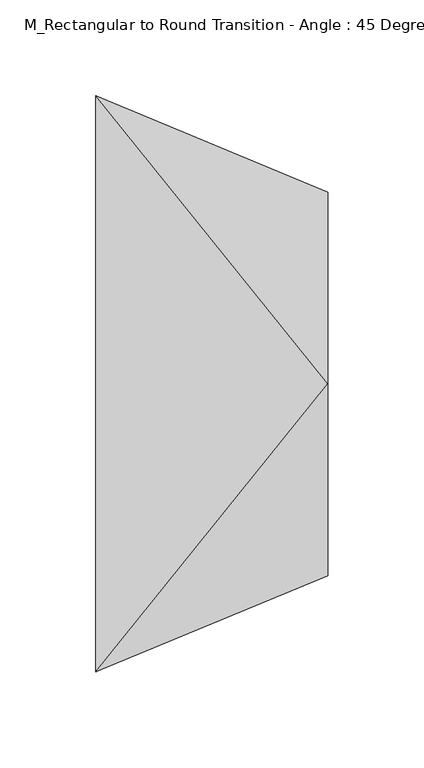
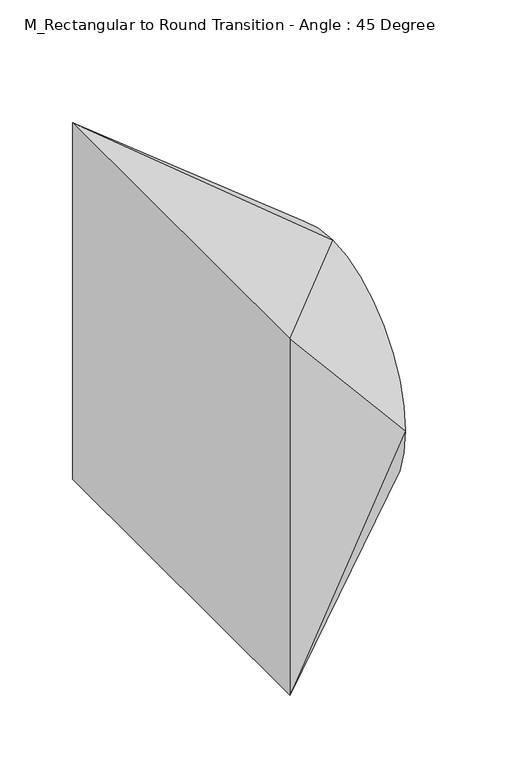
"""IFC4 building model written with IfcOpenShell, lengths in millimetres: duct fitting geometry, M_Rectangular to Round Transition - Angle : 45 Degree."""

from ifc_helpers import new_model, si_unit, frame, origin, place, context, project, spatial, circle_curve, source, transform, mapped, element, save
from ifc_brep_helpers import plane_surface, spline_surface, advanced_brep


def m_rectangular_to_round_transition_angle_45_degree_6baac8c2(model_context):
    return source(origin(), model_context, "Body", "AdvancedBrep", [
        advanced_brep(
        [(120.7106781, 0.0, 100.0), (120.7106781, -100.0, 0.0), (120.7106781, 0.0, -100.0), (120.7106781, 100.0, 0.0), (0.0, -150.0, 150.0), (0.0, 150.0, 150.0), (0.0, 150.0, -150.0), (0.0, -150.0, -150.0)],
        [
            (0, 1, circle_curve(frame((120.7106781, 0.0, 0.0), z_axis=(1.0, 0.0, 0.0), x_axis=(0.0, 1.0, 0.0)), 100.0)),
            (1, 2, circle_curve(frame((120.7106781, 0.0, 0.0), z_axis=(1.0, 0.0, 0.0), x_axis=(0.0, 1.0, 0.0)), 100.0)),
            (2, 3, circle_curve(frame((120.7106781, 0.0, 0.0), z_axis=(1.0, 0.0, 0.0), x_axis=(0.0, 1.0, 0.0)), 100.0)),
            (3, 0, circle_curve(frame((120.7106781, 0.0, 0.0), z_axis=(1.0, 0.0, 0.0), x_axis=(0.0, 1.0, 0.0)), 100.0)),
            (4, 5),
            (5, 6),
            (6, 7),
            (7, 4),
            (0, 4),
            (4, 1),
            (7, 1),
            (7, 2),
            (6, 2),
            (6, 3),
            (5, 3),
            (5, 0),
        ],
        [
            plane_surface(frame((120.7106781, 0.0, 0.0), z_axis=(1.0, 0.0, 0.0), x_axis=(0.0, 0.0, -1.0))),
            plane_surface(frame((0.0, 0.0, 0.0), z_axis=(-1.0, 0.0, 0.0), x_axis=(0.0, 0.0, -1.0))),
            spline_surface(2, 1, [[(0.0, -150.0, 150.0), (120.7106781, 0.0, 100.0)], [(0.0, -150.0, 150.0), (120.7106781, -100.0, 100.0)], [(0.0, -150.0, 150.0), (120.7106781, -100.0, 0.0)]], [3, 3], [2, 2], [0.0, 1.0], [0.0, 1.0], weights=[[1.0, 1.0], [0.7071067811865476, 0.7071067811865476], [1.0, 1.0]]),
            plane_surface(frame((0.0, -150.0, 0.0), z_axis=(0.382683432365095, -0.9238795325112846, 0.0), x_axis=(0.0, 0.0, -1.0))),
            spline_surface(2, 1, [[(0.0, -150.0, -150.0), (120.7106781, -100.0, 0.0)], [(0.0, -150.0, -150.0), (120.7106781, -100.0, -100.0)], [(0.0, -150.0, -150.0), (120.7106781, 0.0, -100.0)]], [3, 3], [2, 2], [0.0, 1.0], [0.0, 1.0], weights=[[1.0, 1.0], [0.7071067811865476, 0.7071067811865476], [1.0, 1.0]]),
            plane_surface(frame((0.0, 0.0, -150.0), z_axis=(0.38268343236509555, 0.0, -0.9238795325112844), x_axis=(0.0, 1.0, 0.0))),
            spline_surface(2, 1, [[(0.0, 150.0, -150.0), (120.7106781, 0.0, -100.0)], [(0.0, 150.0, -150.0), (120.7106781, 100.0, -100.0)], [(0.0, 150.0, -150.0), (120.7106781, 100.0, 0.0)]], [3, 3], [2, 2], [0.0, 1.0], [0.0, 1.0], weights=[[1.0, 1.0], [0.7071067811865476, 0.7071067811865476], [1.0, 1.0]]),
            plane_surface(frame((0.0, 150.0, 0.0), z_axis=(0.38268343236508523, 0.9238795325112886, 0.0), x_axis=(0.0, 0.0, 1.0))),
            spline_surface(2, 1, [[(0.0, 150.0, 150.0), (120.7106781, 100.0, 0.0)], [(0.0, 150.0, 150.0), (120.7106781, 100.0, 100.0)], [(0.0, 150.0, 150.0), (120.7106781, 0.0, 100.0)]], [3, 3], [2, 2], [0.0, 1.0], [0.0, 1.0], weights=[[1.0, 1.0], [0.7071067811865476, 0.7071067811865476], [1.0, 1.0]]),
            plane_surface(frame((0.0, 0.0, 150.0), z_axis=(0.3826834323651, 0.0, 0.9238795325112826), x_axis=(0.0, -1.0, 0.0))),
        ],
        [
            (0, [[1, 2, 3, 4]]),
            (1, [[5, 6, 7, 8]]),
            (2, [[-1, 9, 10]]),
            (3, [[-8, 11, -10]]),
            (4, [[-2, -11, 12]]),
            (5, [[-7, 13, -12]]),
            (6, [[-3, -13, 14]]),
            (7, [[-6, 15, -14]]),
            (8, [[-4, -15, 16]]),
            (9, [[-5, -9, -16]]),
        ],
    ),
    ])


if __name__ == "__main__":
    model = new_model("IFC4")
    model_context = context("Model", 3, world=origin())
    ifc_project = project(units=[si_unit("LENGTHUNIT", "METRE", prefix="MILLI")], contexts=[model_context])
    site = spatial("IfcSite", under=ifc_project)
    building = spatial("IfcBuilding", under=site)
    placement = place(None, origin())
    m_rectangular_to_round_transition_angle_45_degree_shape = m_rectangular_to_round_transition_angle_45_degree_6baac8c2(model_context)
    element("IfcDuctFitting", 1, ObjectType="M_Rectangular to Round Transition - Angle : 45 Degree", at=placement, inside=building, context=model_context, shape_type="MappedRepresentation", body=[
        mapped(m_rectangular_to_round_transition_angle_45_degree_shape, transform((0.0, 0.0, 0.0), x_axis=(1.0, 0.0, 0.0), y_axis=(0.0, 1.0, 0.0), z_axis=(0.0, 0.0, 1.0))),
    ])
    save(model, "model.ifc")
